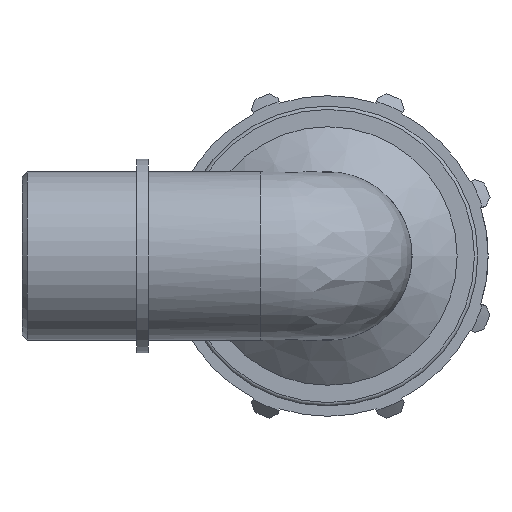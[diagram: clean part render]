
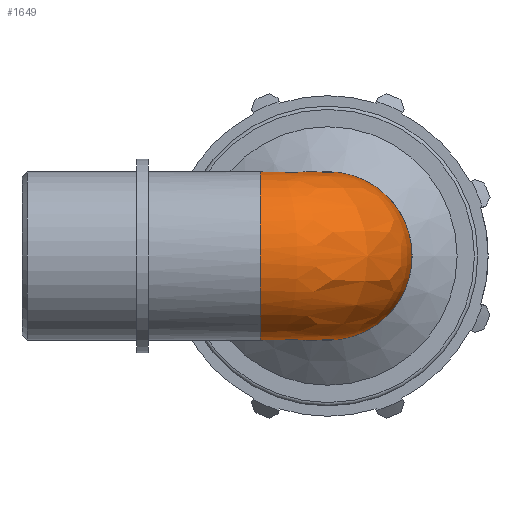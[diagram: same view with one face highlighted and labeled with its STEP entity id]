
A CAD part, left-side view. The second image highlights one B-rep face of the part: STEP entity #1649.
In plain terms, the highlighted free-form (B-spline) face has degree [2, 2] with [9, 3] control points.
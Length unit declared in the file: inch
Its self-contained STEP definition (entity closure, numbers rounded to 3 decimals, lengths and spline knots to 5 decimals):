
#110=(
BOUNDED_SURFACE()
B_SPLINE_SURFACE(2,2,((#2464,#2465,#2466),(#2467,#2468,#2469),(#2470,#2471,
#2472),(#2473,#2474,#2475),(#2476,#2477,#2478),(#2479,#2480,#2481),(#2482,
#2483,#2484),(#2485,#2486,#2487),(#2488,#2489,#2490)),.UNSPECIFIED.,.F.,
 .F.,.F.)
B_SPLINE_SURFACE_WITH_KNOTS((3,2,2,2,3),(3,3),(-2.49809,-1.24905,
0.,1.24905,2.49809),(-3.14159,-1.5708),
 .UNSPECIFIED.)
GEOMETRIC_REPRESENTATION_ITEM()
RATIONAL_B_SPLINE_SURFACE(((1.,0.707,1.),(0.811,
0.574,0.811),(1.,0.707,1.),(0.811,
0.574,0.811),(1.,0.707,1.),(0.811,
0.574,0.811),(1.,0.707,1.),(0.811,
0.574,0.811),(1.,0.707,1.)))
REPRESENTATION_ITEM('')
SURFACE()
);
#342=FACE_OUTER_BOUND('',#428,.T.);
#428=EDGE_LOOP('',(#1057,#1058));
#523=CIRCLE('',#1755,0.52049);
#530=CIRCLE('',#1765,0.52049);
#624=VERTEX_POINT('',#2431);
#625=VERTEX_POINT('',#2433);
#794=EDGE_CURVE('',#624,#625,#523,.T.);
#805=EDGE_CURVE('',#624,#625,#530,.T.);
#1057=ORIENTED_EDGE('',*,*,#805,.T.);
#1058=ORIENTED_EDGE('',*,*,#794,.F.);
#1649=ADVANCED_FACE('',(#342),#110,.F.);
#1755=AXIS2_PLACEMENT_3D('',#2434,#1947,#1948);
#1765=AXIS2_PLACEMENT_3D('',#2463,#1968,#1969);
#1947=DIRECTION('center_axis',(1.,0.,0.));
#1948=DIRECTION('ref_axis',(0.,-1.,0.));
#1968=DIRECTION('center_axis',(0.,-1.,0.));
#1969=DIRECTION('ref_axis',(-1.,0.,0.));
#2431=CARTESIAN_POINT('',(0.41639,0.41639,0.3123));
#2433=CARTESIAN_POINT('',(0.41639,0.41639,-0.3123));
#2434=CARTESIAN_POINT('Origin',(0.41639,0.,
0.));
#2463=CARTESIAN_POINT('Origin',(0.,0.41639,
0.));
#2464=CARTESIAN_POINT('Ctrl Pts',(0.41639,0.41639,-0.3123));
#2465=CARTESIAN_POINT('Ctrl Pts',(0.41639,0.41639,-0.3123));
#2466=CARTESIAN_POINT('Ctrl Pts',(0.41639,0.41639,-0.3123));
#2467=CARTESIAN_POINT('Ctrl Pts',(0.1913,0.41639,-0.61241));
#2468=CARTESIAN_POINT('Ctrl Pts',(0.1913,0.1913,-0.61241));
#2469=CARTESIAN_POINT('Ctrl Pts',(0.41639,0.1913,-0.61241));
#2470=CARTESIAN_POINT('Ctrl Pts',(-0.16459,0.41639,
-0.49378));
#2471=CARTESIAN_POINT('Ctrl Pts',(-0.16459,-0.16459,
-0.49378));
#2472=CARTESIAN_POINT('Ctrl Pts',(0.41639,-0.16459,
-0.49378));
#2473=CARTESIAN_POINT('Ctrl Pts',(-0.52049,0.41639,
-0.37515));
#2474=CARTESIAN_POINT('Ctrl Pts',(-0.52049,-0.52049,
-0.37515));
#2475=CARTESIAN_POINT('Ctrl Pts',(0.41639,-0.52049,
-0.37515));
#2476=CARTESIAN_POINT('Ctrl Pts',(-0.52049,0.41639,
0.));
#2477=CARTESIAN_POINT('Ctrl Pts',(-0.52049,-0.52049,
0.));
#2478=CARTESIAN_POINT('Ctrl Pts',(0.41639,-0.52049,
0.));
#2479=CARTESIAN_POINT('Ctrl Pts',(-0.52049,0.41639,
0.37515));
#2480=CARTESIAN_POINT('Ctrl Pts',(-0.52049,-0.52049,
0.37515));
#2481=CARTESIAN_POINT('Ctrl Pts',(0.41639,-0.52049,
0.37515));
#2482=CARTESIAN_POINT('Ctrl Pts',(-0.16459,0.41639,
0.49378));
#2483=CARTESIAN_POINT('Ctrl Pts',(-0.16459,-0.16459,
0.49378));
#2484=CARTESIAN_POINT('Ctrl Pts',(0.41639,-0.16459,
0.49378));
#2485=CARTESIAN_POINT('Ctrl Pts',(0.1913,0.41639,0.61241));
#2486=CARTESIAN_POINT('Ctrl Pts',(0.1913,0.1913,0.61241));
#2487=CARTESIAN_POINT('Ctrl Pts',(0.41639,0.1913,0.61241));
#2488=CARTESIAN_POINT('Ctrl Pts',(0.41639,0.41639,0.3123));
#2489=CARTESIAN_POINT('Ctrl Pts',(0.41639,0.41639,0.3123));
#2490=CARTESIAN_POINT('Ctrl Pts',(0.41639,0.41639,0.3123));
